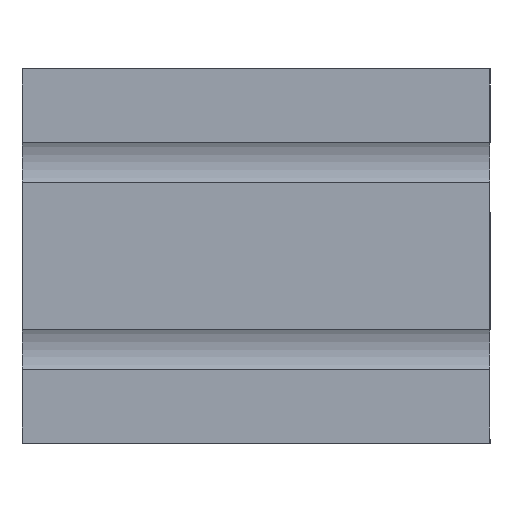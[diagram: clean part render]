
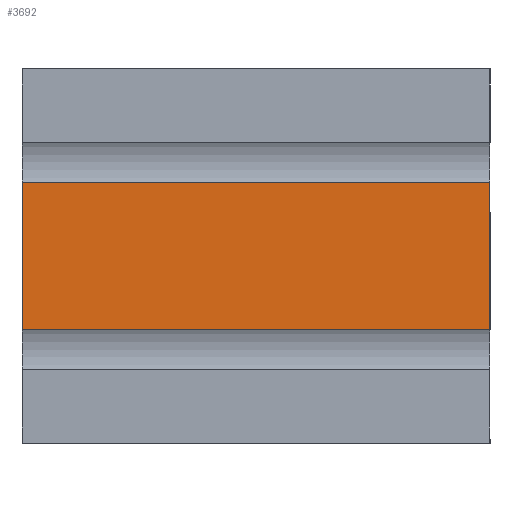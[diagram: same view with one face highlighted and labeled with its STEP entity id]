
A CAD part, left-side view. The second image highlights one B-rep face of the part: STEP entity #3692.
In plain terms, the highlighted planar face has unit normal (-1, 0, 0).
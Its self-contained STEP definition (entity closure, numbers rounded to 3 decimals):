
#668=ORIENTED_EDGE('',*,*,#1360,.T.);
#669=ORIENTED_EDGE('',*,*,#1653,.F.);
#670=ORIENTED_EDGE('',*,*,#1514,.F.);
#671=ORIENTED_EDGE('',*,*,#1654,.T.);
#1360=EDGE_CURVE('',#1881,#1880,#2259,.T.);
#1514=EDGE_CURVE('',#2021,#2022,#2369,.T.);
#1653=EDGE_CURVE('',#2022,#1880,#2485,.T.);
#1654=EDGE_CURVE('',#2021,#1881,#2486,.T.);
#1880=VERTEX_POINT('',#5379);
#1881=VERTEX_POINT('',#5381);
#2021=VERTEX_POINT('',#5687);
#2022=VERTEX_POINT('',#5689);
#2259=LINE('',#5380,#2723);
#2369=LINE('',#5688,#2833);
#2485=LINE('',#5950,#2949);
#2486=LINE('',#5951,#2950);
#2723=VECTOR('',#4312,1000.);
#2833=VECTOR('',#4536,1000.);
#2949=VECTOR('',#4708,1000.);
#2950=VECTOR('',#4709,1000.);
#3134=EDGE_LOOP('',(#668,#669,#670,#671));
#3352=FACE_BOUND('',#3134,.T.);
#3531=PLANE('',#3971);
#3692=ADVANCED_FACE('',(#3352),#3531,.F.);
#3971=AXIS2_PLACEMENT_3D('',#5949,#4706,#4707);
#4312=DIRECTION('',(0.,0.,-1.));
#4536=DIRECTION('',(0.,0.,-1.));
#4706=DIRECTION('',(1.,0.,0.));
#4707=DIRECTION('',(0.,0.,-1.));
#4708=DIRECTION('',(0.,1.,0.));
#4709=DIRECTION('',(0.,1.,0.));
#5379=CARTESIAN_POINT('',(-80.,50.,-15.8));
#5380=CARTESIAN_POINT('',(-80.,50.,40.));
#5381=CARTESIAN_POINT('',(-80.,50.,15.8));
#5687=CARTESIAN_POINT('',(-80.,-50.,15.8));
#5688=CARTESIAN_POINT('',(-80.,-50.,40.));
#5689=CARTESIAN_POINT('',(-80.,-50.,-15.8));
#5949=CARTESIAN_POINT('',(-80.,-50.,40.));
#5950=CARTESIAN_POINT('',(-80.,-204.939,-15.8));
#5951=CARTESIAN_POINT('',(-80.,-50.,15.8));
